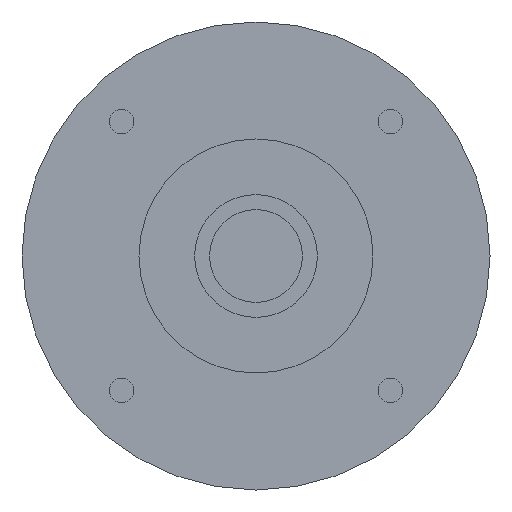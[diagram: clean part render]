
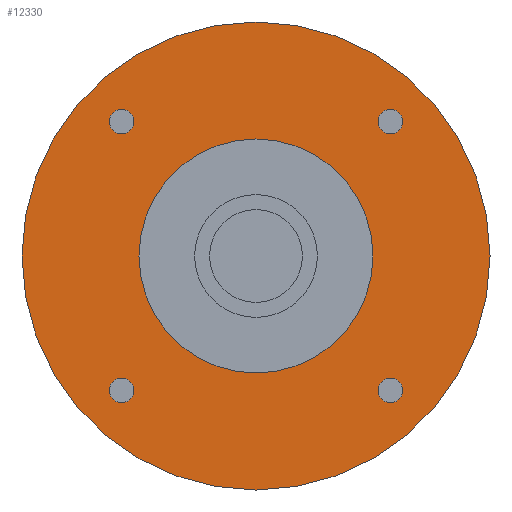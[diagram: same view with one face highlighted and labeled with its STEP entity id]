
A CAD part, left-side view. The second image highlights one B-rep face of the part: STEP entity #12330.
In plain terms, the highlighted planar face has unit normal (-1, 0, 0) as drawn and (0, 0, -1) by its records, which use the part's own axes.
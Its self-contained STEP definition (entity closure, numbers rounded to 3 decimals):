
#8640=CARTESIAN_POINT('',(-25.081,-22.981,-42.2));
#8650=VERTEX_POINT('',#8640);
#8830=CARTESIAN_POINT('',(-20.881,-22.981,-42.2));
#8840=VERTEX_POINT('',#8830);
#8870=CARTESIAN_POINT('',(-22.981,-22.981,-42.2));
#8880=DIRECTION('',(0.,0.,-1.));
#8890=DIRECTION('',(1.,0.,0.));
#8900=AXIS2_PLACEMENT_3D('',#8870,#8880,#8890);
#8910=CIRCLE('',#8900,2.1);
#8920=EDGE_CURVE('',#8650,#8840,#8910,.T.);
#9060=CARTESIAN_POINT('',(-20.,0.,-42.2));
#9070=VERTEX_POINT('',#9060);
#9250=CARTESIAN_POINT('',(20.,0.,-42.2));
#9260=VERTEX_POINT('',#9250);
#9290=CARTESIAN_POINT('',(0.,0.,
-42.2));
#9300=DIRECTION('',(0.,0.,1.));
#9310=DIRECTION('',(-1.,0.,0.));
#9320=AXIS2_PLACEMENT_3D('',#9290,#9300,#9310);
#9330=CIRCLE('',#9320,20.);
#9340=EDGE_CURVE('',#9260,#9070,#9330,.T.);
#11450=CARTESIAN_POINT('',(-40.,0.,-42.2));
#11460=VERTEX_POINT('',#11450);
#11490=CARTESIAN_POINT('',(0.,0.,
-42.2));
#11500=DIRECTION('',(0.,0.,-1.));
#11510=DIRECTION('',(1.,0.,0.));
#11520=AXIS2_PLACEMENT_3D('',#11490,#11500,#11510);
#11530=CIRCLE('',#11520,40.);
#11540=CARTESIAN_POINT('',(40.,0.,-42.2));
#11550=VERTEX_POINT('',#11540);
#11560=EDGE_CURVE('',#11460,#11550,#11530,.T.);
#11680=CARTESIAN_POINT('',(0.,0.,
-42.2));
#11690=DIRECTION('',(0.,0.,1.));
#11700=DIRECTION('',(1.,0.,0.));
#11710=AXIS2_PLACEMENT_3D('',#11680,#11690,#11700);
#11720=PLANE('',#11710);
#11730=CARTESIAN_POINT('',(-22.981,22.981,-42.2));
#11740=DIRECTION('',(0.,0.,-1.));
#11750=DIRECTION('',(1.,0.,0.));
#11760=AXIS2_PLACEMENT_3D('',#11730,#11740,#11750);
#11770=CIRCLE('',#11760,2.1);
#11780=CARTESIAN_POINT('',(-20.881,22.981,-42.2));
#11790=VERTEX_POINT('',#11780);
#11800=CARTESIAN_POINT('',(-25.081,22.981,-42.2));
#11810=VERTEX_POINT('',#11800);
#11820=EDGE_CURVE('',#11790,#11810,#11770,.T.);
#11830=ORIENTED_EDGE('',*,*,#11820,.F.);
#11840=EDGE_CURVE('',#11810,#11790,#11770,.T.);
#11850=ORIENTED_EDGE('',*,*,#11840,.F.);
#11860=EDGE_LOOP('',(#11850,#11830));
#11870=FACE_BOUND('',#11860,.T.);
#11880=CARTESIAN_POINT('',(22.981,22.981,-42.2));
#11890=DIRECTION('',(0.,0.,-1.));
#11900=DIRECTION('',(1.,0.,0.));
#11910=AXIS2_PLACEMENT_3D('',#11880,#11890,#11900);
#11920=CIRCLE('',#11910,2.1);
#11930=CARTESIAN_POINT('',(25.081,22.981,-42.2));
#11940=VERTEX_POINT('',#11930);
#11950=CARTESIAN_POINT('',(20.881,22.981,-42.2));
#11960=VERTEX_POINT('',#11950);
#11970=EDGE_CURVE('',#11940,#11960,#11920,.T.);
#11980=ORIENTED_EDGE('',*,*,#11970,.F.);
#11990=EDGE_CURVE('',#11960,#11940,#11920,.T.);
#12000=ORIENTED_EDGE('',*,*,#11990,.F.);
#12010=EDGE_LOOP('',(#12000,#11980));
#12020=FACE_BOUND('',#12010,.T.);
#12030=CARTESIAN_POINT('',(22.981,-22.981,-42.2));
#12040=DIRECTION('',(0.,0.,-1.));
#12050=DIRECTION('',(1.,0.,0.));
#12060=AXIS2_PLACEMENT_3D('',#12030,#12040,#12050);
#12070=CIRCLE('',#12060,2.1);
#12080=CARTESIAN_POINT('',(25.081,-22.981,-42.2));
#12090=VERTEX_POINT('',#12080);
#12100=CARTESIAN_POINT('',(20.881,-22.981,-42.2));
#12110=VERTEX_POINT('',#12100);
#12120=EDGE_CURVE('',#12090,#12110,#12070,.T.);
#12130=ORIENTED_EDGE('',*,*,#12120,.F.);
#12140=EDGE_CURVE('',#12110,#12090,#12070,.T.);
#12150=ORIENTED_EDGE('',*,*,#12140,.F.);
#12160=EDGE_LOOP('',(#12150,#12130));
#12170=FACE_BOUND('',#12160,.T.);
#12180=EDGE_CURVE('',#9070,#9260,#9330,.T.);
#12190=ORIENTED_EDGE('',*,*,#12180,.T.);
#12200=ORIENTED_EDGE('',*,*,#9340,.T.);
#12210=EDGE_LOOP('',(#12200,#12190));
#12220=FACE_BOUND('',#12210,.T.);
#12230=EDGE_CURVE('',#8840,#8650,#8910,.T.);
#12240=ORIENTED_EDGE('',*,*,#12230,.F.);
#12250=ORIENTED_EDGE('',*,*,#8920,.F.);
#12260=EDGE_LOOP('',(#12250,#12240));
#12270=FACE_BOUND('',#12260,.T.);
#12280=EDGE_CURVE('',#11550,#11460,#11530,.T.);
#12290=ORIENTED_EDGE('',*,*,#12280,.T.);
#12300=ORIENTED_EDGE('',*,*,#11560,.T.);
#12310=EDGE_LOOP('',(#12300,#12290));
#12320=FACE_OUTER_BOUND('',#12310,.T.);
#12330=ADVANCED_FACE('',(#11870,#12020,#12170,#12220,#12270,#12320),
#11720,.F.);
